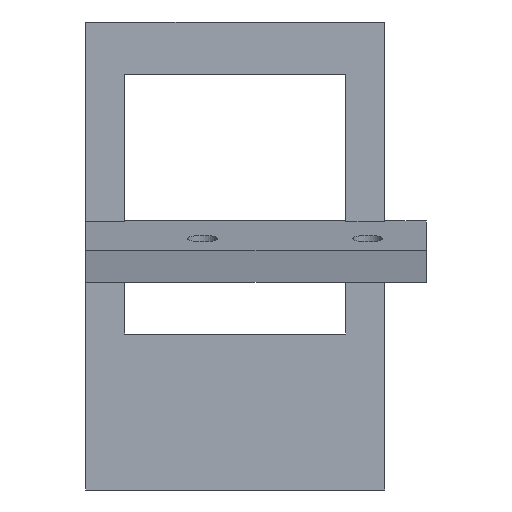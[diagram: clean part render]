
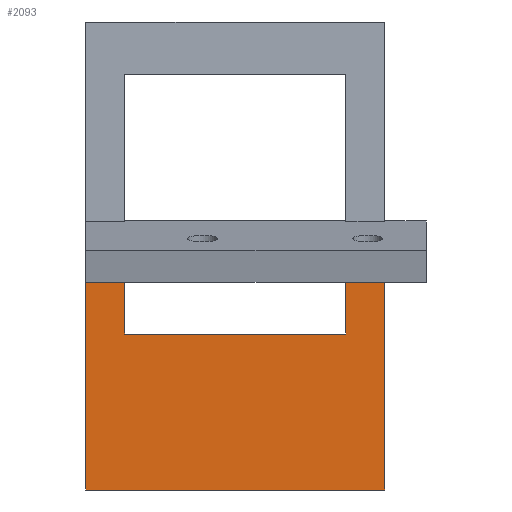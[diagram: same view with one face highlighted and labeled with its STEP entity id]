
A CAD part, left-side view. The second image highlights one B-rep face of the part: STEP entity #2093.
In plain terms, the highlighted planar face has unit normal (-1, 0, 0).
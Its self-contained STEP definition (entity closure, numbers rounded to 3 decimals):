
#72 = PLANE('',#73);
#73 = AXIS2_PLACEMENT_3D('',#74,#75,#76);
#74 = CARTESIAN_POINT('',(1.221,-76.4,-186.04));
#75 = DIRECTION('',(-0.216,0.,0.976));
#76 = DIRECTION('',(0.976,0.,0.216));
#100 = PLANE('',#101);
#101 = AXIS2_PLACEMENT_3D('',#102,#103,#104);
#102 = CARTESIAN_POINT('',(1.221,-24.,-186.04));
#103 = DIRECTION('',(0.,1.,0.));
#104 = DIRECTION('',(-0.216,0.,0.976));
#280 = PLANE('',#281);
#281 = AXIS2_PLACEMENT_3D('',#282,#283,#284);
#282 = CARTESIAN_POINT('',(47.405,-70.,-176.561));
#283 = DIRECTION('',(0.,1.,0.));
#284 = DIRECTION('',(0.,-0.,1.));
#333 = PLANE('',#334);
#334 = AXIS2_PLACEMENT_3D('',#335,#336,#337);
#335 = CARTESIAN_POINT('',(47.405,-64.,-176.561));
#336 = DIRECTION('',(0.,1.,0.));
#337 = DIRECTION('',(0.,-0.,1.));
#387 = PLANE('',#388);
#388 = AXIS2_PLACEMENT_3D('',#389,#390,#391);
#389 = CARTESIAN_POINT('',(47.405,-30.,-176.561));
#390 = DIRECTION('',(0.,1.,0.));
#391 = DIRECTION('',(0.,-0.,1.));
#492 = VERTEX_POINT('',#493);
#493 = CARTESIAN_POINT('',(20.5,-24.,-181.766));
#708 = VERTEX_POINT('',#709);
#709 = CARTESIAN_POINT('',(20.5,-24.,-218.));
#723 = PLANE('',#724);
#724 = AXIS2_PLACEMENT_3D('',#725,#726,#727);
#725 = CARTESIAN_POINT('',(41.5,-30.,-218.));
#726 = DIRECTION('',(0.,0.,1.));
#727 = DIRECTION('',(-1.,0.,0.));
#735 = EDGE_CURVE('',#708,#492,#736,.T.);
#736 = SURFACE_CURVE('',#737,(#741,#748),.PCURVE_S1.);
#737 = LINE('',#738,#739);
#738 = CARTESIAN_POINT('',(20.5,-24.,-218.));
#739 = VECTOR('',#740,1.);
#740 = DIRECTION('',(0.,0.,1.));
#741 = PCURVE('',#100,#742);
#742 = DEFINITIONAL_REPRESENTATION('',(#743),#747);
#743 = LINE('',#744,#745);
#744 = CARTESIAN_POINT('',(-35.375,11.904));
#745 = VECTOR('',#746,1.);
#746 = DIRECTION('',(0.976,0.216));
#747 = ( GEOMETRIC_REPRESENTATION_CONTEXT(2) 
PARAMETRIC_REPRESENTATION_CONTEXT() REPRESENTATION_CONTEXT('2D SPACE',''
  ) );
#748 = PCURVE('',#749,#754);
#749 = PLANE('',#750);
#750 = AXIS2_PLACEMENT_3D('',#751,#752,#753);
#751 = CARTESIAN_POINT('',(20.5,-30.,-218.));
#752 = DIRECTION('',(1.,0.,-0.));
#753 = DIRECTION('',(0.,0.,1.));
#754 = DEFINITIONAL_REPRESENTATION('',(#755),#759);
#755 = LINE('',#756,#757);
#756 = CARTESIAN_POINT('',(0.,-6.));
#757 = VECTOR('',#758,1.);
#758 = DIRECTION('',(1.,0.));
#759 = ( GEOMETRIC_REPRESENTATION_CONTEXT(2) 
PARAMETRIC_REPRESENTATION_CONTEXT() REPRESENTATION_CONTEXT('2D SPACE',''
  ) );
#826 = VERTEX_POINT('',#827);
#827 = CARTESIAN_POINT('',(20.5,-70.,-181.766));
#846 = EDGE_CURVE('',#826,#847,#849,.T.);
#847 = VERTEX_POINT('',#848);
#848 = CARTESIAN_POINT('',(20.5,-64.,-181.766));
#849 = SURFACE_CURVE('',#850,(#854,#860),.PCURVE_S1.);
#850 = LINE('',#851,#852);
#851 = CARTESIAN_POINT('',(20.5,-73.2,-181.766));
#852 = VECTOR('',#853,1.);
#853 = DIRECTION('',(-0.,1.,-0.));
#854 = PCURVE('',#72,#855);
#855 = DEFINITIONAL_REPRESENTATION('',(#856),#859);
#856 = B_SPLINE_CURVE_WITH_KNOTS('',1,(#857,#858),.UNSPECIFIED.,.F.,.F.,
  (2,2),(3.2,9.2),.PIECEWISE_BEZIER_KNOTS.);
#857 = CARTESIAN_POINT('',(19.747,6.4));
#858 = CARTESIAN_POINT('',(19.747,12.4));
#859 = ( GEOMETRIC_REPRESENTATION_CONTEXT(2) 
PARAMETRIC_REPRESENTATION_CONTEXT() REPRESENTATION_CONTEXT('2D SPACE',''
  ) );
#860 = PCURVE('',#749,#861);
#861 = DEFINITIONAL_REPRESENTATION('',(#862),#866);
#862 = LINE('',#863,#864);
#863 = CARTESIAN_POINT('',(36.234,43.2));
#864 = VECTOR('',#865,1.);
#865 = DIRECTION('',(0.,-1.));
#866 = ( GEOMETRIC_REPRESENTATION_CONTEXT(2) 
PARAMETRIC_REPRESENTATION_CONTEXT() REPRESENTATION_CONTEXT('2D SPACE',''
  ) );
#913 = VERTEX_POINT('',#914);
#914 = CARTESIAN_POINT('',(20.5,-30.,-181.766));
#933 = EDGE_CURVE('',#913,#492,#934,.T.);
#934 = SURFACE_CURVE('',#935,(#939,#945),.PCURVE_S1.);
#935 = LINE('',#936,#937);
#936 = CARTESIAN_POINT('',(20.5,-53.2,-181.766));
#937 = VECTOR('',#938,1.);
#938 = DIRECTION('',(-0.,1.,-0.));
#939 = PCURVE('',#72,#940);
#940 = DEFINITIONAL_REPRESENTATION('',(#941),#944);
#941 = B_SPLINE_CURVE_WITH_KNOTS('',1,(#942,#943),.UNSPECIFIED.,.F.,.F.,
  (2,2),(23.2,29.2),.PIECEWISE_BEZIER_KNOTS.);
#942 = CARTESIAN_POINT('',(19.747,46.4));
#943 = CARTESIAN_POINT('',(19.747,52.4));
#944 = ( GEOMETRIC_REPRESENTATION_CONTEXT(2) 
PARAMETRIC_REPRESENTATION_CONTEXT() REPRESENTATION_CONTEXT('2D SPACE',''
  ) );
#945 = PCURVE('',#749,#946);
#946 = DEFINITIONAL_REPRESENTATION('',(#947),#951);
#947 = LINE('',#948,#949);
#948 = CARTESIAN_POINT('',(36.234,23.2));
#949 = VECTOR('',#950,1.);
#950 = DIRECTION('',(0.,-1.));
#951 = ( GEOMETRIC_REPRESENTATION_CONTEXT(2) 
PARAMETRIC_REPRESENTATION_CONTEXT() REPRESENTATION_CONTEXT('2D SPACE',''
  ) );
#1370 = VERTEX_POINT('',#1371);
#1371 = CARTESIAN_POINT('',(20.5,-30.,-194.));
#1384 = PLANE('',#1385);
#1385 = AXIS2_PLACEMENT_3D('',#1386,#1387,#1388);
#1386 = CARTESIAN_POINT('',(20.5,-70.,-194.));
#1387 = DIRECTION('',(0.,0.,1.));
#1388 = DIRECTION('',(1.,0.,0.));
#1395 = EDGE_CURVE('',#1370,#913,#1396,.T.);
#1396 = SURFACE_CURVE('',#1397,(#1401,#1408),.PCURVE_S1.);
#1397 = LINE('',#1398,#1399);
#1398 = CARTESIAN_POINT('',(20.5,-30.,-218.));
#1399 = VECTOR('',#1400,1.);
#1400 = DIRECTION('',(0.,0.,1.));
#1401 = PCURVE('',#387,#1402);
#1402 = DEFINITIONAL_REPRESENTATION('',(#1403),#1407);
#1403 = LINE('',#1404,#1405);
#1404 = CARTESIAN_POINT('',(-41.439,-26.905));
#1405 = VECTOR('',#1406,1.);
#1406 = DIRECTION('',(1.,0.));
#1407 = ( GEOMETRIC_REPRESENTATION_CONTEXT(2) 
PARAMETRIC_REPRESENTATION_CONTEXT() REPRESENTATION_CONTEXT('2D SPACE',''
  ) );
#1408 = PCURVE('',#749,#1409);
#1409 = DEFINITIONAL_REPRESENTATION('',(#1410),#1414);
#1410 = LINE('',#1411,#1412);
#1411 = CARTESIAN_POINT('',(0.,0.));
#1412 = VECTOR('',#1413,1.);
#1413 = DIRECTION('',(1.,0.));
#1414 = ( GEOMETRIC_REPRESENTATION_CONTEXT(2) 
PARAMETRIC_REPRESENTATION_CONTEXT() REPRESENTATION_CONTEXT('2D SPACE',''
  ) );
#1679 = VERTEX_POINT('',#1680);
#1680 = CARTESIAN_POINT('',(20.5,-64.,-194.));
#1699 = EDGE_CURVE('',#1679,#847,#1700,.T.);
#1700 = SURFACE_CURVE('',#1701,(#1705,#1712),.PCURVE_S1.);
#1701 = LINE('',#1702,#1703);
#1702 = CARTESIAN_POINT('',(20.5,-64.,-218.));
#1703 = VECTOR('',#1704,1.);
#1704 = DIRECTION('',(0.,0.,1.));
#1705 = PCURVE('',#333,#1706);
#1706 = DEFINITIONAL_REPRESENTATION('',(#1707),#1711);
#1707 = LINE('',#1708,#1709);
#1708 = CARTESIAN_POINT('',(-41.439,-26.905));
#1709 = VECTOR('',#1710,1.);
#1710 = DIRECTION('',(1.,0.));
#1711 = ( GEOMETRIC_REPRESENTATION_CONTEXT(2) 
PARAMETRIC_REPRESENTATION_CONTEXT() REPRESENTATION_CONTEXT('2D SPACE',''
  ) );
#1712 = PCURVE('',#749,#1713);
#1713 = DEFINITIONAL_REPRESENTATION('',(#1714),#1718);
#1714 = LINE('',#1715,#1716);
#1715 = CARTESIAN_POINT('',(0.,34.));
#1716 = VECTOR('',#1717,1.);
#1717 = DIRECTION('',(1.,0.));
#1718 = ( GEOMETRIC_REPRESENTATION_CONTEXT(2) 
PARAMETRIC_REPRESENTATION_CONTEXT() REPRESENTATION_CONTEXT('2D SPACE',''
  ) );
#1936 = VERTEX_POINT('',#1937);
#1937 = CARTESIAN_POINT('',(20.5,-70.,-218.));
#1958 = EDGE_CURVE('',#826,#1936,#1959,.T.);
#1959 = SURFACE_CURVE('',#1960,(#1964,#1971),.PCURVE_S1.);
#1960 = LINE('',#1961,#1962);
#1961 = CARTESIAN_POINT('',(20.5,-70.,-181.766));
#1962 = VECTOR('',#1963,1.);
#1963 = DIRECTION('',(0.,0.,-1.));
#1964 = PCURVE('',#280,#1965);
#1965 = DEFINITIONAL_REPRESENTATION('',(#1966),#1970);
#1966 = LINE('',#1967,#1968);
#1967 = CARTESIAN_POINT('',(-5.205,-26.905));
#1968 = VECTOR('',#1969,1.);
#1969 = DIRECTION('',(-1.,0.));
#1970 = ( GEOMETRIC_REPRESENTATION_CONTEXT(2) 
PARAMETRIC_REPRESENTATION_CONTEXT() REPRESENTATION_CONTEXT('2D SPACE',''
  ) );
#1971 = PCURVE('',#749,#1972);
#1972 = DEFINITIONAL_REPRESENTATION('',(#1973),#1977);
#1973 = LINE('',#1974,#1975);
#1974 = CARTESIAN_POINT('',(36.234,40.));
#1975 = VECTOR('',#1976,1.);
#1976 = DIRECTION('',(-1.,0.));
#1977 = ( GEOMETRIC_REPRESENTATION_CONTEXT(2) 
PARAMETRIC_REPRESENTATION_CONTEXT() REPRESENTATION_CONTEXT('2D SPACE',''
  ) );
#2093 = ADVANCED_FACE('',(#2094),#749,.F.);
#2094 = FACE_BOUND('',#2095,.F.);
#2095 = EDGE_LOOP('',(#2096,#2097,#2118,#2119,#2120,#2121,#2142,#2143));
#2096 = ORIENTED_EDGE('',*,*,#1395,.F.);
#2097 = ORIENTED_EDGE('',*,*,#2098,.F.);
#2098 = EDGE_CURVE('',#1679,#1370,#2099,.T.);
#2099 = SURFACE_CURVE('',#2100,(#2104,#2111),.PCURVE_S1.);
#2100 = LINE('',#2101,#2102);
#2101 = CARTESIAN_POINT('',(20.5,-70.,-194.));
#2102 = VECTOR('',#2103,1.);
#2103 = DIRECTION('',(0.,1.,0.));
#2104 = PCURVE('',#749,#2105);
#2105 = DEFINITIONAL_REPRESENTATION('',(#2106),#2110);
#2106 = LINE('',#2107,#2108);
#2107 = CARTESIAN_POINT('',(24.,40.));
#2108 = VECTOR('',#2109,1.);
#2109 = DIRECTION('',(0.,-1.));
#2110 = ( GEOMETRIC_REPRESENTATION_CONTEXT(2) 
PARAMETRIC_REPRESENTATION_CONTEXT() REPRESENTATION_CONTEXT('2D SPACE',''
  ) );
#2111 = PCURVE('',#1384,#2112);
#2112 = DEFINITIONAL_REPRESENTATION('',(#2113),#2117);
#2113 = LINE('',#2114,#2115);
#2114 = CARTESIAN_POINT('',(0.,0.));
#2115 = VECTOR('',#2116,1.);
#2116 = DIRECTION('',(0.,1.));
#2117 = ( GEOMETRIC_REPRESENTATION_CONTEXT(2) 
PARAMETRIC_REPRESENTATION_CONTEXT() REPRESENTATION_CONTEXT('2D SPACE',''
  ) );
#2118 = ORIENTED_EDGE('',*,*,#1699,.T.);
#2119 = ORIENTED_EDGE('',*,*,#846,.F.);
#2120 = ORIENTED_EDGE('',*,*,#1958,.T.);
#2121 = ORIENTED_EDGE('',*,*,#2122,.F.);
#2122 = EDGE_CURVE('',#708,#1936,#2123,.T.);
#2123 = SURFACE_CURVE('',#2124,(#2128,#2135),.PCURVE_S1.);
#2124 = LINE('',#2125,#2126);
#2125 = CARTESIAN_POINT('',(20.5,-24.,-218.));
#2126 = VECTOR('',#2127,1.);
#2127 = DIRECTION('',(0.,-1.,0.));
#2128 = PCURVE('',#749,#2129);
#2129 = DEFINITIONAL_REPRESENTATION('',(#2130),#2134);
#2130 = LINE('',#2131,#2132);
#2131 = CARTESIAN_POINT('',(0.,-6.));
#2132 = VECTOR('',#2133,1.);
#2133 = DIRECTION('',(0.,1.));
#2134 = ( GEOMETRIC_REPRESENTATION_CONTEXT(2) 
PARAMETRIC_REPRESENTATION_CONTEXT() REPRESENTATION_CONTEXT('2D SPACE',''
  ) );
#2135 = PCURVE('',#723,#2136);
#2136 = DEFINITIONAL_REPRESENTATION('',(#2137),#2141);
#2137 = LINE('',#2138,#2139);
#2138 = CARTESIAN_POINT('',(21.,-6.));
#2139 = VECTOR('',#2140,1.);
#2140 = DIRECTION('',(0.,1.));
#2141 = ( GEOMETRIC_REPRESENTATION_CONTEXT(2) 
PARAMETRIC_REPRESENTATION_CONTEXT() REPRESENTATION_CONTEXT('2D SPACE',''
  ) );
#2142 = ORIENTED_EDGE('',*,*,#735,.T.);
#2143 = ORIENTED_EDGE('',*,*,#933,.F.);
